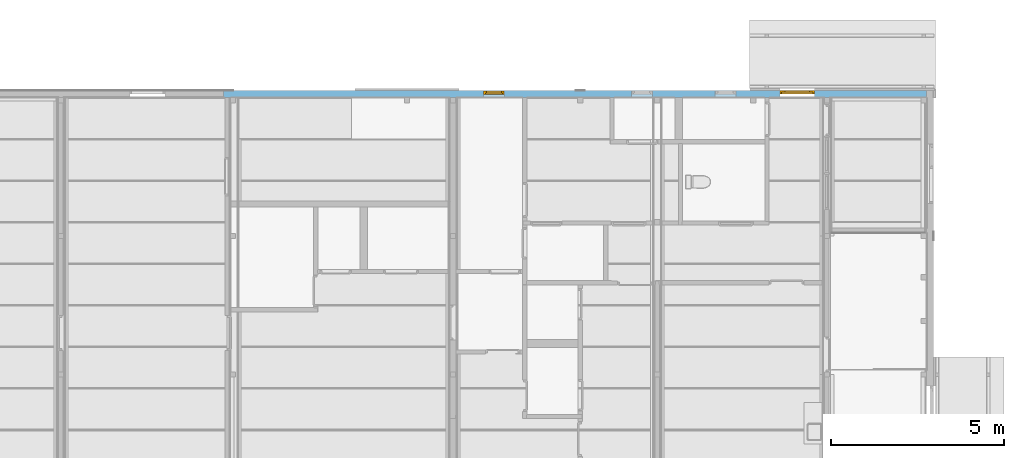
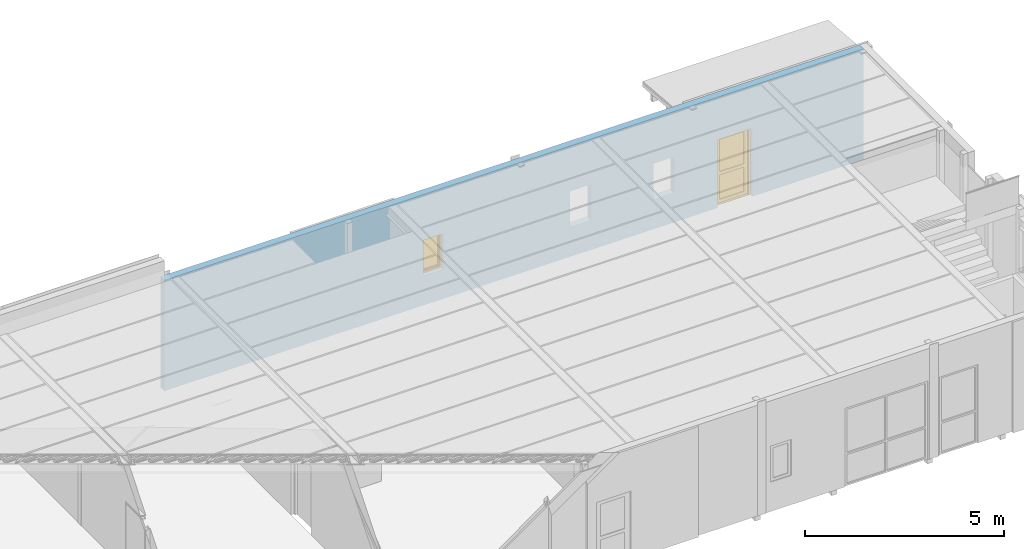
# One storey, part 34 of 45: 1 door, 1 window, 4 openings, plus 1 element that does not belong to this part.
"""IFC2X3 building model written with IfcOpenShell, lengths in millimetres."""

from ifc_helpers import new_model, entity, si_unit, converted_unit, frame, frame_2d, origin, origin_with_axes, place, context, subcontext, project, spatial, rectangle, extrude, faceted_brep, material, layer, layer_set, layer_usage, type_object, element, fill, save


model = new_model("IFC2X3")

# Units and contexts
model_context = context("Model", 3, precision=1e-05, world=origin())
plan_context = context("Plan", 3, precision=1e-05, world=origin())
body_context = subcontext(model_context, "Body", "Model", "MODEL_VIEW")
ifc_project = project(units=[si_unit("LENGTHUNIT", "METRE", prefix="MILLI"), converted_unit("PLANEANGLEUNIT", "DEGREE", entity("IfcPlaneAngleMeasure", 0.0174532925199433), si_unit("PLANEANGLEUNIT", "RADIAN"), dimensions=[0, 0, 0, 0, 0, 0, 0]), si_unit("AREAUNIT", "SQUARE_METRE"), si_unit("VOLUMEUNIT", "CUBIC_METRE")], contexts=[model_context, plan_context])

# Building, storey
building_placement = place(None, origin())
building = spatial("IfcBuilding", under=ifc_project, at=building_placement, Name="HEKF Administrasjonbygg", CompositionType="ELEMENT")
storey_placement = place(building_placement, frame((0.0, 0.0, 6500.0), z_axis=(0.0, 0.0, 1.0), x_axis=(1.0, 0.0, 0.0)))
storey = spatial("IfcBuildingStorey", under=building, at=storey_placement, Name="Plan 1", CompositionType="ELEMENT", Elevation=6500.0)

# Wall, openings, window, door
ifc_material_1 = material(Name="Paroc 200")
ifc_layer = layer(ifc_material_1, 200.0)
ifc_layer_set = layer_set([ifc_layer])
ifc_layer_usage = layer_usage(ifc_layer_set, "AXIS2", "POSITIVE", 0.0)
wall_placement = place(storey_placement, frame((9700.0, 0.0, 0.0), z_axis=(0.0, 0.0, 1.0), x_axis=(1.0, 0.0, 0.0)))
wall = element("IfcWallStandardCase", 1, at=wall_placement, inside=storey, material=ifc_layer_usage, context=body_context, shape_type="SweptSolid", body=[
    extrude(rectangle(XDim=20300.0, YDim=200.0, at=frame_2d((10150.0, 100.0), x_axis=(1.0, 0.0))), origin_with_axes(), (0.0, 0.0, 1.0), 3400.0),
])
opening_1_placement = place(wall_placement, frame((14196.02524509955, 0.0, 900.0), z_axis=(0.0, 1.0, 0.0), x_axis=(0.0, 0.0, 1.0)))
element("IfcOpeningElement", 2, at=opening_1_placement, cuts=wall, Name="Window opening", ObjectType="Opening", context=body_context, shape_type="SweptSolid", body=[
    extrude(rectangle(XDim=1110.0, YDim=610.0, at=frame_2d((555.0, 305.0), x_axis=(1.0, 0.0))), origin_with_axes(), (0.0, 0.0, 1.0), 200.0),
])
opening_2_placement = place(wall_placement, frame((11783.83890219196, 0.0, 900.0), z_axis=(0.0, 1.0, 0.0), x_axis=(0.0, 0.0, 1.0)))
element("IfcOpeningElement", 3, at=opening_2_placement, cuts=wall, Name="Window opening", ObjectType="Opening", context=body_context, shape_type="SweptSolid", body=[
    extrude(rectangle(XDim=1110.0, YDim=610.0, at=frame_2d((555.0, 305.0), x_axis=(1.0, 0.0))), origin_with_axes(), (0.0, 0.0, 1.0), 200.0),
])
opening_3_placement = place(wall_placement, frame((7500.0, 0.0, 900.0), z_axis=(0.0, 1.0, 0.0), x_axis=(0.0, 0.0, 1.0)))
opening_3 = element("IfcOpeningElement", 4, at=opening_3_placement, cuts=wall, Name="V008", ObjectType="Opening", context=body_context, shape_type="SweptSolid", body=[
    extrude(rectangle(XDim=1110.0, YDim=610.0, at=frame_2d((555.0, 305.0), x_axis=(1.0, 0.0))), origin_with_axes(), (0.0, 0.0, 1.0), 200.0),
])
opening_4_placement = place(wall_placement, frame((16063.51368374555, 0.0, 0.0), z_axis=(0.0, 1.0, 0.0), x_axis=(0.0, 0.0, 1.0)))
opening_4 = element("IfcOpeningElement", 5, at=opening_4_placement, cuts=wall, Name="D004", ObjectType="Opening", context=body_context, shape_type="SweptSolid", body=[
    extrude(rectangle(XDim=2100.0, YDim=1010.0, at=frame_2d((1050.0, 505.0), x_axis=(1.0, 0.0))), origin_with_axes(), (0.0, 0.0, 1.0), 200.0),
])
ifc_material_2 = material()
window_style = type_object("IfcWindowStyle", Name="V107", ConstructionType="NOTDEFINED", OperationType="USERDEFINED", ParameterTakesPrecedence=False, Sizeable=False)
window_placement = place(opening_3_placement, frame((0.0, 0.0, 0.0), z_axis=(1.0, 0.0, 0.0), x_axis=(0.0, 1.0, 0.0)))
window = element("IfcWindow", 6, at=window_placement, inside=storey, type_object=window_style, material=ifc_material_2, Name="V107", OverallHeight=1110.0, OverallWidth=610.0, context=body_context, shape_type="Brep", body=[
    faceted_brep([(10.00000000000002, 186.0000000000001, 1100.0), (10.00000000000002, 186.0000000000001, 9.999999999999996), (60.00000000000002, 186.0, 9.999999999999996), (60.00000000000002, 186.0000000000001, 1100.0), (10.0, 94.00000000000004, 10.0), (10.0, 94.00000000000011, 1100.0), (60.0, 94.0000000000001, 1100.0), (60.0, 94.00000000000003, 10.0), (10.00000000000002, 186.0000000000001, 9.999999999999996), (10.00000000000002, 186.0000000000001, 1100.0), (10.0, 94.00000000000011, 1100.0), (10.0, 94.00000000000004, 10.0), (60.00000000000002, 186.0, 9.999999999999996), (10.00000000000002, 186.0000000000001, 9.999999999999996), (10.0, 94.00000000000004, 10.0), (60.0, 94.00000000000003, 10.0), (60.00000000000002, 186.0000000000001, 1100.0), (60.00000000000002, 186.0, 9.999999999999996), (60.0, 94.00000000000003, 10.0), (60.0, 94.0000000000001, 1100.0), (10.00000000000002, 186.0000000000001, 1100.0), (60.00000000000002, 186.0000000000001, 1100.0), (60.0, 94.0000000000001, 1100.0), (10.0, 94.00000000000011, 1100.0)], [[[0, 1, 2, 3]], [[4, 5, 6, 7]], [[8, 9, 10, 11]], [[12, 13, 14, 15]], [[16, 17, 18, 19]], [[20, 21, 22, 23]]], orient=[[False], [False], [False], [False], [False], [False]]),
    faceted_brep([(549.9999999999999, 186.0, 1100.0), (549.9999999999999, 185.9999999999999, 9.999999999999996), (599.9999999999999, 185.9999999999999, 9.999999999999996), (599.9999999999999, 186.0, 1100.0), (549.9999999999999, 93.99999999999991, 10.0), (549.9999999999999, 93.99999999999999, 1100.0), (599.9999999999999, 93.99999999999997, 1100.0), (599.9999999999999, 93.9999999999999, 10.0), (549.9999999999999, 185.9999999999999, 9.999999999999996), (549.9999999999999, 186.0, 1100.0), (549.9999999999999, 93.99999999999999, 1100.0), (549.9999999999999, 93.99999999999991, 10.0), (599.9999999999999, 185.9999999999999, 9.999999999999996), (549.9999999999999, 185.9999999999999, 9.999999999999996), (549.9999999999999, 93.99999999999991, 10.0), (599.9999999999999, 93.9999999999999, 10.0), (599.9999999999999, 186.0, 1100.0), (599.9999999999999, 185.9999999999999, 9.999999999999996), (599.9999999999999, 93.9999999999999, 10.0), (599.9999999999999, 93.99999999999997, 1100.0), (549.9999999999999, 186.0, 1100.0), (599.9999999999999, 186.0, 1100.0), (599.9999999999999, 93.99999999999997, 1100.0), (549.9999999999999, 93.99999999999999, 1100.0)], [[[0, 1, 2, 3]], [[4, 5, 6, 7]], [[8, 9, 10, 11]], [[12, 13, 14, 15]], [[16, 17, 18, 19]], [[20, 21, 22, 23]]], orient=[[False], [False], [False], [False], [False], [False]]),
    faceted_brep([(60.00000000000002, 186.0, 60.0), (60.00000000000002, 186.0, 9.999999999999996), (550.0, 185.9999999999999, 9.999999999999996), (550.0, 185.9999999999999, 60.0), (60.0, 94.00000000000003, 10.0), (60.0, 94.00000000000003, 60.0), (550.0, 93.99999999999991, 60.0), (550.0, 93.99999999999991, 10.0), (60.00000000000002, 186.0, 9.999999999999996), (60.00000000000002, 186.0, 60.0), (60.0, 94.00000000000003, 60.0), (60.0, 94.00000000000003, 10.0), (550.0, 185.9999999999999, 9.999999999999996), (60.00000000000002, 186.0, 9.999999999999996), (60.0, 94.00000000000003, 10.0), (550.0, 93.99999999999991, 10.0), (550.0, 185.9999999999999, 60.0), (550.0, 185.9999999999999, 9.999999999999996), (550.0, 93.99999999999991, 10.0), (550.0, 93.99999999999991, 60.0), (60.00000000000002, 186.0, 60.0), (550.0, 185.9999999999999, 60.0), (550.0, 93.99999999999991, 60.0), (60.0, 94.00000000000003, 60.0)], [[[0, 1, 2, 3]], [[4, 5, 6, 7]], [[8, 9, 10, 11]], [[12, 13, 14, 15]], [[16, 17, 18, 19]], [[20, 21, 22, 23]]], orient=[[False], [False], [False], [False], [False], [False]]),
    faceted_brep([(60.00000000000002, 186.0000000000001, 1100.0), (60.00000000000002, 186.0000000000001, 1050.0), (550.0, 186.0, 1050.0), (550.0, 186.0, 1100.0), (60.0, 94.00000000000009, 1050.0), (60.0, 94.00000000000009, 1100.0), (550.0, 93.99999999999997, 1100.0), (550.0, 93.99999999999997, 1050.0), (60.00000000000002, 186.0000000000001, 1050.0), (60.00000000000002, 186.0000000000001, 1100.0), (60.0, 94.00000000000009, 1100.0), (60.0, 94.00000000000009, 1050.0), (550.0, 186.0, 1050.0), (60.00000000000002, 186.0000000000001, 1050.0), (60.0, 94.00000000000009, 1050.0), (550.0, 93.99999999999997, 1050.0), (550.0, 186.0, 1100.0), (550.0, 186.0, 1050.0), (550.0, 93.99999999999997, 1050.0), (550.0, 93.99999999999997, 1100.0), (60.00000000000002, 186.0000000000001, 1100.0), (550.0, 186.0, 1100.0), (550.0, 93.99999999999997, 1100.0), (60.0, 94.00000000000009, 1100.0)], [[[0, 1, 2, 3]], [[4, 5, 6, 7]], [[8, 9, 10, 11]], [[12, 13, 14, 15]], [[16, 17, 18, 19]], [[20, 21, 22, 23]]], orient=[[False], [False], [False], [False], [False], [False]]),
    faceted_brep([(40.00000000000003, 186.0000000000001, 1070.0), (40.00000000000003, 186.0000000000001, 40.00000000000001), (90.00000000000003, 186.0, 40.00000000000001), (90.00000000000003, 186.0000000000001, 1070.0), (40.00000000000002, 136.0000000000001, 40.00000000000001), (40.00000000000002, 136.0000000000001, 1070.0), (90.00000000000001, 136.0000000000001, 1070.0), (90.00000000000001, 136.0, 40.00000000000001), (40.00000000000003, 186.0000000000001, 40.00000000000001), (40.00000000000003, 186.0000000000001, 1070.0), (40.00000000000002, 136.0000000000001, 1070.0), (40.00000000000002, 136.0000000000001, 40.00000000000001), (90.00000000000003, 186.0, 40.00000000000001), (40.00000000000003, 186.0000000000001, 40.00000000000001), (40.00000000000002, 136.0000000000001, 40.00000000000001), (90.00000000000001, 136.0, 40.00000000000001), (90.00000000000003, 186.0000000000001, 1070.0), (90.00000000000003, 186.0, 40.00000000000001), (90.00000000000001, 136.0, 40.00000000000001), (90.00000000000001, 136.0000000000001, 1070.0), (40.00000000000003, 186.0000000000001, 1070.0), (90.00000000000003, 186.0000000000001, 1070.0), (90.00000000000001, 136.0000000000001, 1070.0), (40.00000000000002, 136.0000000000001, 1070.0)], [[[0, 1, 2, 3]], [[4, 5, 6, 7]], [[8, 9, 10, 11]], [[12, 13, 14, 15]], [[16, 17, 18, 19]], [[20, 21, 22, 23]]], orient=[[False], [False], [False], [False], [False], [False]]),
    faceted_brep([(520.0, 186.0, 1070.0), (520.0, 185.9999999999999, 40.00000000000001), (570.0, 185.9999999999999, 40.00000000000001), (570.0, 186.0, 1070.0), (520.0, 135.9999999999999, 40.00000000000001), (520.0, 136.0, 1070.0), (570.0, 136.0, 1070.0), (570.0, 135.9999999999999, 40.00000000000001), (520.0, 185.9999999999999, 40.00000000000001), (520.0, 186.0, 1070.0), (520.0, 136.0, 1070.0), (520.0, 135.9999999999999, 40.00000000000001), (570.0, 185.9999999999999, 40.00000000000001), (520.0, 185.9999999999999, 40.00000000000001), (520.0, 135.9999999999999, 40.00000000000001), (570.0, 135.9999999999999, 40.00000000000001), (570.0, 186.0, 1070.0), (570.0, 185.9999999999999, 40.00000000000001), (570.0, 135.9999999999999, 40.00000000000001), (570.0, 136.0, 1070.0), (520.0, 186.0, 1070.0), (570.0, 186.0, 1070.0), (570.0, 136.0, 1070.0), (520.0, 136.0, 1070.0)], [[[0, 1, 2, 3]], [[4, 5, 6, 7]], [[8, 9, 10, 11]], [[12, 13, 14, 15]], [[16, 17, 18, 19]], [[20, 21, 22, 23]]], orient=[[False], [False], [False], [False], [False], [False]]),
    faceted_brep([(90.00000000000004, 186.0, 90.0), (90.00000000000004, 186.0, 40.00000000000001), (520.0, 185.9999999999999, 40.00000000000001), (520.0, 185.9999999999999, 90.0), (90.00000000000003, 136.0, 40.00000000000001), (90.00000000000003, 136.0, 90.0), (520.0, 135.9999999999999, 90.0), (520.0, 135.9999999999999, 40.00000000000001), (90.00000000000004, 186.0, 40.00000000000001), (90.00000000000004, 186.0, 90.0), (90.00000000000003, 136.0, 90.0), (90.00000000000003, 136.0, 40.00000000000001), (520.0, 185.9999999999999, 40.00000000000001), (90.00000000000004, 186.0, 40.00000000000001), (90.00000000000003, 136.0, 40.00000000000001), (520.0, 135.9999999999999, 40.00000000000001), (520.0, 185.9999999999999, 90.0), (520.0, 185.9999999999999, 40.00000000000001), (520.0, 135.9999999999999, 40.00000000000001), (520.0, 135.9999999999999, 90.0), (90.00000000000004, 186.0, 90.0), (520.0, 185.9999999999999, 90.0), (520.0, 135.9999999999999, 90.0), (90.00000000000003, 136.0, 90.0)], [[[0, 1, 2, 3]], [[4, 5, 6, 7]], [[8, 9, 10, 11]], [[12, 13, 14, 15]], [[16, 17, 18, 19]], [[20, 21, 22, 23]]], orient=[[False], [False], [False], [False], [False], [False]]),
    faceted_brep([(90.00000000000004, 186.0000000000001, 1070.0), (90.00000000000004, 186.0000000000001, 1020.0), (520.0, 186.0, 1020.0), (520.0, 186.0, 1070.0), (90.00000000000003, 136.0000000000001, 1020.0), (90.00000000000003, 136.0000000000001, 1070.0), (520.0, 136.0, 1070.0), (520.0, 136.0, 1020.0), (90.00000000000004, 186.0000000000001, 1020.0), (90.00000000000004, 186.0000000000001, 1070.0), (90.00000000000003, 136.0000000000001, 1070.0), (90.00000000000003, 136.0000000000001, 1020.0), (520.0, 186.0, 1020.0), (90.00000000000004, 186.0000000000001, 1020.0), (90.00000000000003, 136.0000000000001, 1020.0), (520.0, 136.0, 1020.0), (520.0, 186.0, 1070.0), (520.0, 186.0, 1020.0), (520.0, 136.0, 1020.0), (520.0, 136.0, 1070.0), (90.00000000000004, 186.0000000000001, 1070.0), (520.0, 186.0, 1070.0), (520.0, 136.0, 1070.0), (90.00000000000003, 136.0000000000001, 1070.0)], [[[0, 1, 2, 3]], [[4, 5, 6, 7]], [[8, 9, 10, 11]], [[12, 13, 14, 15]], [[16, 17, 18, 19]], [[20, 21, 22, 23]]], orient=[[False], [False], [False], [False], [False], [False]]),
    faceted_brep([(90.00000000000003, 161.0, 90.00000000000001), (520.0, 160.9999999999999, 90.00000000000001), (520.0, 161.0, 1020.0), (90.00000000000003, 161.0000000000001, 1020.0), (90.00000000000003, 160.0, 90.00000000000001), (90.00000000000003, 160.0000000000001, 1020.0), (520.0, 160.0, 1020.0), (520.0, 159.9999999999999, 90.00000000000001), (90.00000000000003, 161.0, 90.00000000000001), (90.00000000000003, 160.0, 90.00000000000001), (520.0, 159.9999999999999, 90.00000000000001), (520.0, 160.9999999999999, 90.00000000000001), (520.0, 160.9999999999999, 90.00000000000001), (520.0, 159.9999999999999, 90.00000000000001), (520.0, 160.0, 1020.0), (520.0, 161.0, 1020.0), (520.0, 161.0, 1020.0), (520.0, 160.0, 1020.0), (90.00000000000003, 160.0000000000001, 1020.0), (90.00000000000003, 161.0000000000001, 1020.0), (90.00000000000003, 161.0000000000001, 1020.0), (90.00000000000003, 160.0000000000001, 1020.0), (90.00000000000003, 160.0, 90.00000000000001), (90.00000000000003, 161.0, 90.00000000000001)], [[[0, 1, 2, 3]], [[4, 5, 6, 7]], [[8, 9, 10, 11]], [[12, 13, 14, 15]], [[16, 17, 18, 19]], [[20, 21, 22, 23]]], orient=[[False], [False], [False], [False], [False], [False]]),
])
fill(opening_3, window)
ifc_material_3 = material()
door_style = type_object("IfcDoorStyle", Name="D004", ConstructionType="NOTDEFINED", OperationType="USERDEFINED", ParameterTakesPrecedence=False, Sizeable=False)
door_placement = place(opening_4_placement, frame((0.0, 0.0, 0.0), z_axis=(1.0, 0.0, 0.0), x_axis=(0.0, 1.0, 0.0)))
door = element("IfcDoor", 7, at=door_placement, inside=storey, type_object=door_style, material=ifc_material_3, Name="D004", OverallHeight=2100.0, OverallWidth=1010.0, context=body_context, shape_type="Brep", body=[
    faceted_brep([(1010.0, 200.0000000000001, 2100.0), (960.0, 200.0000000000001, 2100.0), (960.0, 200.0, -3.061616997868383e-15), (1010.0, 200.0, -3.061616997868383e-15), (1010.0, 99.99999999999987, 3.061616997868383e-15), (960.0, 99.99999999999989, 3.061616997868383e-15), (960.0, 100.0, 2100.0), (1010.0, 100.0, 2100.0), (1010.0, 200.0, -3.061616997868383e-15), (1010.0, 99.99999999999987, 3.061616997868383e-15), (1010.0, 100.0, 2100.0), (1010.0, 200.0000000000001, 2100.0), (960.0, 200.0, -3.061616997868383e-15), (960.0, 99.99999999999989, 3.061616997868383e-15), (1010.0, 99.99999999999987, 3.061616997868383e-15), (1010.0, 200.0, -3.061616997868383e-15), (960.0, 200.0000000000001, 2100.0), (960.0, 100.0, 2100.0), (960.0, 99.99999999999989, 3.061616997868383e-15), (960.0, 200.0, -3.061616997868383e-15), (1010.0, 200.0000000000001, 2100.0), (1010.0, 100.0, 2100.0), (960.0, 100.0, 2100.0), (960.0, 200.0000000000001, 2100.0)], [[[0, 1, 2, 3]], [[4, 5, 6, 7]], [[8, 9, 10, 11]], [[12, 13, 14, 15]], [[16, 17, 18, 19]], [[20, 21, 22, 23]]], orient=[[False], [False], [False], [False], [False], [False]]),
    faceted_brep([(50.0, 200.0000000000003, 2100.0), (0.0, 200.0000000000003, 2100.0), (0.0, 200.0000000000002, -3.061616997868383e-15), (50.0, 200.0000000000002, -3.061616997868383e-15), (50.0, 100.0000000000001, 3.061616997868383e-15), (0.0, 100.0000000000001, 3.061616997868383e-15), (0.0, 100.0000000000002, 2100.0), (50.0, 100.0000000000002, 2100.0), (50.0, 200.0000000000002, -3.061616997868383e-15), (50.0, 100.0000000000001, 3.061616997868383e-15), (50.0, 100.0000000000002, 2100.0), (50.0, 200.0000000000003, 2100.0), (0.0, 200.0000000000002, -3.061616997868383e-15), (0.0, 100.0000000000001, 3.061616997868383e-15), (50.0, 100.0000000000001, 3.061616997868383e-15), (50.0, 200.0000000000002, -3.061616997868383e-15), (0.0, 200.0000000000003, 2100.0), (0.0, 100.0000000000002, 2100.0), (0.0, 100.0000000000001, 3.061616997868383e-15), (0.0, 200.0000000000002, -3.061616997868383e-15), (50.0, 200.0000000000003, 2100.0), (50.0, 100.0000000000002, 2100.0), (0.0, 100.0000000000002, 2100.0), (0.0, 200.0000000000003, 2100.0)], [[[0, 1, 2, 3]], [[4, 5, 6, 7]], [[8, 9, 10, 11]], [[12, 13, 14, 15]], [[16, 17, 18, 19]], [[20, 21, 22, 23]]], orient=[[False], [False], [False], [False], [False], [False]]),
    faceted_brep([(960.0, 200.0, 9.999999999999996), (50.00000000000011, 200.0000000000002, 9.999999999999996), (50.00000000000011, 200.0000000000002, -3.061616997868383e-15), (960.0, 200.0, -3.061616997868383e-15), (960.0, 99.99999999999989, 3.061616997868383e-15), (50.00000000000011, 100.0000000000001, 3.061616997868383e-15), (50.00000000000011, 100.0000000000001, 10.0), (960.0, 99.99999999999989, 10.0), (960.0, 200.0, -3.061616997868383e-15), (960.0, 99.99999999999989, 3.061616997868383e-15), (960.0, 99.99999999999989, 10.0), (960.0, 200.0, 9.999999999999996), (50.00000000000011, 200.0000000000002, -3.061616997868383e-15), (50.00000000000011, 100.0000000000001, 3.061616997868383e-15), (960.0, 99.99999999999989, 3.061616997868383e-15), (960.0, 200.0, -3.061616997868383e-15), (50.00000000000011, 200.0000000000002, 9.999999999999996), (50.00000000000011, 100.0000000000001, 10.0), (50.00000000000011, 100.0000000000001, 3.061616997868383e-15), (50.00000000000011, 200.0000000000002, -3.061616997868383e-15), (960.0, 200.0, 9.999999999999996), (960.0, 99.99999999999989, 10.0), (50.00000000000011, 100.0000000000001, 10.0), (50.00000000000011, 200.0000000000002, 9.999999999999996)], [[[0, 1, 2, 3]], [[4, 5, 6, 7]], [[8, 9, 10, 11]], [[12, 13, 14, 15]], [[16, 17, 18, 19]], [[20, 21, 22, 23]]], orient=[[False], [False], [False], [False], [False], [False]]),
    faceted_brep([(960.0, 200.0000000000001, 2100.000000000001), (50.00000000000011, 200.0000000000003, 2100.000000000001), (50.00000000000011, 200.0000000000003, 2050.000000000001), (960.0, 200.0000000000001, 2050.000000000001), (960.0, 100.0, 2050.000000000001), (50.00000000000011, 100.0000000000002, 2050.000000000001), (50.00000000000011, 100.0000000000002, 2100.000000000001), (960.0, 100.0, 2100.000000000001), (960.0, 200.0000000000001, 2050.000000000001), (960.0, 100.0, 2050.000000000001), (960.0, 100.0, 2100.000000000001), (960.0, 200.0000000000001, 2100.000000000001), (50.00000000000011, 200.0000000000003, 2050.000000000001), (50.00000000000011, 100.0000000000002, 2050.000000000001), (960.0, 100.0, 2050.000000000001), (960.0, 200.0000000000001, 2050.000000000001), (50.00000000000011, 200.0000000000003, 2100.000000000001), (50.00000000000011, 100.0000000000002, 2100.000000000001), (50.00000000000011, 100.0000000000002, 2050.000000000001), (50.00000000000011, 200.0000000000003, 2050.000000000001), (960.0, 200.0000000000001, 2100.000000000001), (960.0, 100.0, 2100.000000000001), (50.00000000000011, 100.0000000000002, 2100.000000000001), (50.00000000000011, 200.0000000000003, 2100.000000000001)], [[[0, 1, 2, 3]], [[4, 5, 6, 7]], [[8, 9, 10, 11]], [[12, 13, 14, 15]], [[16, 17, 18, 19]], [[20, 21, 22, 23]]], orient=[[False], [False], [False], [False], [False], [False]]),
    faceted_brep([(960.0, 200.0000000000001, 2050.000000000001), (860.0, 200.0000000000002, 2050.000000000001), (860.0, 200.0, 9.999999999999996), (960.0, 200.0, 9.999999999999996), (960.0, 159.9999999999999, 9.999999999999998), (860.0, 160.0, 9.999999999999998), (860.0, 160.0000000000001, 2050.000000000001), (960.0, 160.0000000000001, 2050.000000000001), (960.0, 200.0, 9.999999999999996), (960.0, 159.9999999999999, 9.999999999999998), (960.0, 160.0000000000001, 2050.000000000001), (960.0, 200.0000000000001, 2050.000000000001), (860.0, 200.0, 9.999999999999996), (860.0, 160.0, 9.999999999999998), (960.0, 159.9999999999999, 9.999999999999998), (960.0, 200.0, 9.999999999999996), (860.0, 200.0000000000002, 2050.000000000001), (860.0, 160.0000000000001, 2050.000000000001), (860.0, 160.0, 9.999999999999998), (860.0, 200.0, 9.999999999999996), (960.0, 200.0000000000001, 2050.000000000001), (960.0, 160.0000000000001, 2050.000000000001), (860.0, 160.0000000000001, 2050.000000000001), (860.0, 200.0000000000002, 2050.000000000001)], [[[0, 1, 2, 3]], [[4, 5, 6, 7]], [[8, 9, 10, 11]], [[12, 13, 14, 15]], [[16, 17, 18, 19]], [[20, 21, 22, 23]]], orient=[[False], [False], [False], [False], [False], [False]]),
    faceted_brep([(150.0000000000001, 200.0000000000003, 2050.000000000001), (50.00000000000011, 200.0000000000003, 2050.000000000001), (50.00000000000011, 200.0000000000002, 9.999999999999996), (150.0000000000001, 200.0000000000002, 9.999999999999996), (150.0000000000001, 160.0000000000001, 9.999999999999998), (50.00000000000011, 160.0000000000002, 9.999999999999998), (50.00000000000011, 160.0000000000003, 2050.000000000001), (150.0000000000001, 160.0000000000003, 2050.000000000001), (150.0000000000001, 200.0000000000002, 9.999999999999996), (150.0000000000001, 160.0000000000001, 9.999999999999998), (150.0000000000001, 160.0000000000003, 2050.000000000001), (150.0000000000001, 200.0000000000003, 2050.000000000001), (50.00000000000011, 200.0000000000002, 9.999999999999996), (50.00000000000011, 160.0000000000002, 9.999999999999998), (150.0000000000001, 160.0000000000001, 9.999999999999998), (150.0000000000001, 200.0000000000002, 9.999999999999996), (50.00000000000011, 200.0000000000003, 2050.000000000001), (50.00000000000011, 160.0000000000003, 2050.000000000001), (50.00000000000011, 160.0000000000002, 9.999999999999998), (50.00000000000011, 200.0000000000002, 9.999999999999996), (150.0000000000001, 200.0000000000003, 2050.000000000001), (150.0000000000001, 160.0000000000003, 2050.000000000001), (50.00000000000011, 160.0000000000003, 2050.000000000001), (50.00000000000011, 200.0000000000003, 2050.000000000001)], [[[0, 1, 2, 3]], [[4, 5, 6, 7]], [[8, 9, 10, 11]], [[12, 13, 14, 15]], [[16, 17, 18, 19]], [[20, 21, 22, 23]]], orient=[[False], [False], [False], [False], [False], [False]]),
    faceted_brep([(860.0, 200.0, 110.0), (150.0, 200.0000000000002, 110.0), (150.0, 200.0000000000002, 9.999999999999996), (860.0, 200.0, 9.999999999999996), (860.0, 160.0, 9.999999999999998), (150.0, 160.0000000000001, 9.999999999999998), (150.0, 160.0000000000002, 110.0), (860.0, 160.0, 110.0), (860.0, 200.0, 9.999999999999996), (860.0, 160.0, 9.999999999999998), (860.0, 160.0, 110.0), (860.0, 200.0, 110.0), (150.0, 200.0000000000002, 9.999999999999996), (150.0, 160.0000000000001, 9.999999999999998), (860.0, 160.0, 9.999999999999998), (860.0, 200.0, 9.999999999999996), (150.0, 200.0000000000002, 110.0), (150.0, 160.0000000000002, 110.0), (150.0, 160.0000000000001, 9.999999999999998), (150.0, 200.0000000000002, 9.999999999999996), (860.0, 200.0, 110.0), (860.0, 160.0, 110.0), (150.0, 160.0000000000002, 110.0), (150.0, 200.0000000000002, 110.0)], [[[0, 1, 2, 3]], [[4, 5, 6, 7]], [[8, 9, 10, 11]], [[12, 13, 14, 15]], [[16, 17, 18, 19]], [[20, 21, 22, 23]]], orient=[[False], [False], [False], [False], [False], [False]]),
    faceted_brep([(860.0, 200.0000000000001, 2050.000000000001), (150.0, 200.0000000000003, 2050.000000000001), (150.0, 200.0000000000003, 1950.000000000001), (860.0, 200.0000000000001, 1950.000000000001), (860.0, 160.0000000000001, 1950.000000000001), (150.0, 160.0000000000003, 1950.000000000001), (150.0, 160.0000000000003, 2050.000000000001), (860.0, 160.0000000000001, 2050.000000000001), (860.0, 200.0000000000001, 1950.000000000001), (860.0, 160.0000000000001, 1950.000000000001), (860.0, 160.0000000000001, 2050.000000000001), (860.0, 200.0000000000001, 2050.000000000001), (150.0, 200.0000000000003, 1950.000000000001), (150.0, 160.0000000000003, 1950.000000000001), (860.0, 160.0000000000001, 1950.000000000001), (860.0, 200.0000000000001, 1950.000000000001), (150.0, 200.0000000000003, 2050.000000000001), (150.0, 160.0000000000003, 2050.000000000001), (150.0, 160.0000000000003, 1950.000000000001), (150.0, 200.0000000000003, 1950.000000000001), (860.0, 200.0000000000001, 2050.000000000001), (860.0, 160.0000000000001, 2050.000000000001), (150.0, 160.0000000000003, 2050.000000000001), (150.0, 200.0000000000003, 2050.000000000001)], [[[0, 1, 2, 3]], [[4, 5, 6, 7]], [[8, 9, 10, 11]], [[12, 13, 14, 15]], [[16, 17, 18, 19]], [[20, 21, 22, 23]]], orient=[[False], [False], [False], [False], [False], [False]]),
    faceted_brep([(860.0, 200.0000000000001, 960.0), (150.0, 200.0000000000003, 960.0), (150.0, 200.0000000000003, 860.0), (860.0, 200.0000000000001, 860.0), (860.0, 160.0, 860.0), (150.0, 160.0000000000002, 860.0), (150.0, 160.0000000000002, 960.0), (860.0, 160.0, 960.0), (860.0, 200.0000000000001, 860.0), (860.0, 160.0, 860.0), (860.0, 160.0, 960.0), (860.0, 200.0000000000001, 960.0), (150.0, 200.0000000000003, 860.0), (150.0, 160.0000000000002, 860.0), (860.0, 160.0, 860.0), (860.0, 200.0000000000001, 860.0), (150.0, 200.0000000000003, 960.0), (150.0, 160.0000000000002, 960.0), (150.0, 160.0000000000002, 860.0), (150.0, 200.0000000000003, 860.0), (860.0, 200.0000000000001, 960.0), (860.0, 160.0, 960.0), (150.0, 160.0000000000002, 960.0), (150.0, 200.0000000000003, 960.0)], [[[0, 1, 2, 3]], [[4, 5, 6, 7]], [[8, 9, 10, 11]], [[12, 13, 14, 15]], [[16, 17, 18, 19]], [[20, 21, 22, 23]]], orient=[[False], [False], [False], [False], [False], [False]]),
    faceted_brep([(860.0, 180.0, 110.0), (860.0, 180.0000000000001, 860.0), (150.0, 180.0000000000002, 860.0), (150.0, 180.0000000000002, 110.0), (860.0, 179.0, 110.0), (150.0, 179.0000000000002, 110.0), (150.0, 179.0000000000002, 860.0), (860.0, 179.0000000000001, 860.0), (860.0, 180.0, 110.0), (860.0, 179.0, 110.0), (860.0, 179.0000000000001, 860.0), (860.0, 180.0000000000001, 860.0), (860.0, 180.0000000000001, 860.0), (860.0, 179.0000000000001, 860.0), (150.0, 179.0000000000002, 860.0), (150.0, 180.0000000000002, 860.0), (150.0, 180.0000000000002, 860.0), (150.0, 179.0000000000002, 860.0), (150.0, 179.0000000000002, 110.0), (150.0, 180.0000000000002, 110.0), (150.0, 180.0000000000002, 110.0), (150.0, 179.0000000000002, 110.0), (860.0, 179.0, 110.0), (860.0, 180.0, 110.0)], [[[0, 1, 2, 3]], [[4, 5, 6, 7]], [[8, 9, 10, 11]], [[12, 13, 14, 15]], [[16, 17, 18, 19]], [[20, 21, 22, 23]]], orient=[[False], [False], [False], [False], [False], [False]]),
    faceted_brep([(860.0, 180.0000000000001, 960.0), (860.0, 180.0000000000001, 1950.000000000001), (150.0, 180.0000000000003, 1950.000000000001), (150.0, 180.0000000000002, 960.0), (860.0, 179.0000000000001, 960.0), (150.0, 179.0000000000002, 960.0), (150.0, 179.0000000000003, 1950.000000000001), (860.0, 179.0000000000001, 1950.000000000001), (860.0, 180.0000000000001, 960.0), (860.0, 179.0000000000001, 960.0), (860.0, 179.0000000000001, 1950.000000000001), (860.0, 180.0000000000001, 1950.000000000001), (860.0, 180.0000000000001, 1950.000000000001), (860.0, 179.0000000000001, 1950.000000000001), (150.0, 179.0000000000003, 1950.000000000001), (150.0, 180.0000000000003, 1950.000000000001), (150.0, 180.0000000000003, 1950.000000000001), (150.0, 179.0000000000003, 1950.000000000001), (150.0, 179.0000000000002, 960.0), (150.0, 180.0000000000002, 960.0), (150.0, 180.0000000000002, 960.0), (150.0, 179.0000000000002, 960.0), (860.0, 179.0000000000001, 960.0), (860.0, 180.0000000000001, 960.0)], [[[0, 1, 2, 3]], [[4, 5, 6, 7]], [[8, 9, 10, 11]], [[12, 13, 14, 15]], [[16, 17, 18, 19]], [[20, 21, 22, 23]]], orient=[[False], [False], [False], [False], [False], [False]]),
])
fill(opening_4, door)

save(model, "model.ifc")
